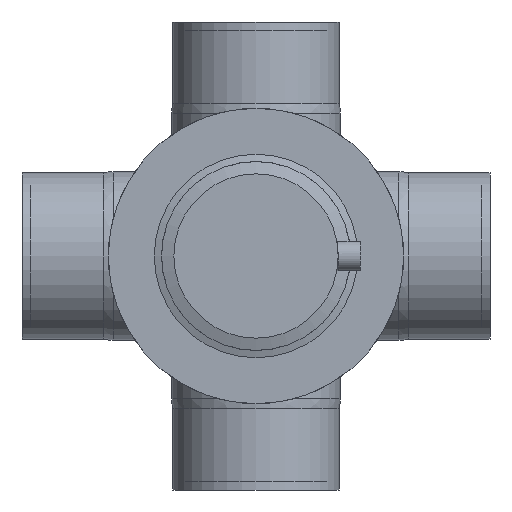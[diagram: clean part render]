
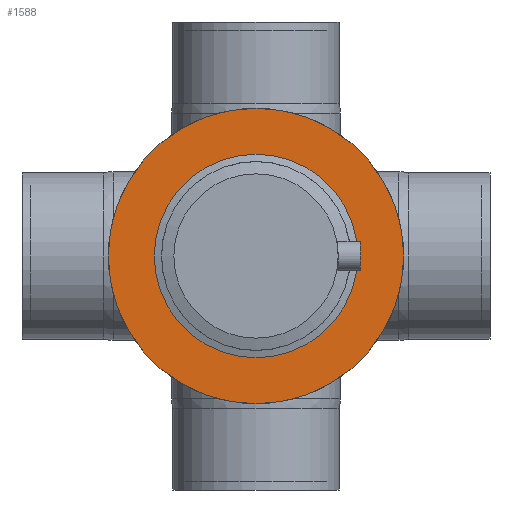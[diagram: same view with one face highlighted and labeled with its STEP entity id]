
A CAD part, front view. The second image highlights one B-rep face of the part: STEP entity #1588.
In plain terms, the highlighted planar face has unit normal (0, -1, 0).
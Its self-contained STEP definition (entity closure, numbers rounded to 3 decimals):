
#107=FACE_BOUND('',#373,.T.);
#145=PLANE('',#1905);
#239=FACE_OUTER_BOUND('',#372,.T.);
#372=EDGE_LOOP('',(#1374,#1375));
#373=EDGE_LOOP('',(#1376,#1377));
#620=CIRCLE('',#1903,57.5);
#621=CIRCLE('',#1904,57.5);
#622=CIRCLE('',#1906,90.);
#623=CIRCLE('',#1907,90.);
#786=VERTEX_POINT('',#3052);
#787=VERTEX_POINT('',#3054);
#788=VERTEX_POINT('',#3058);
#789=VERTEX_POINT('',#3059);
#990=EDGE_CURVE('',#787,#786,#620,.T.);
#991=EDGE_CURVE('',#786,#787,#621,.T.);
#992=EDGE_CURVE('',#788,#789,#622,.T.);
#993=EDGE_CURVE('',#789,#788,#623,.T.);
#1374=ORIENTED_EDGE('',*,*,#992,.F.);
#1375=ORIENTED_EDGE('',*,*,#993,.F.);
#1376=ORIENTED_EDGE('',*,*,#990,.T.);
#1377=ORIENTED_EDGE('',*,*,#991,.T.);
#1588=ADVANCED_FACE('',(#239,#107),#145,.F.);
#1903=AXIS2_PLACEMENT_3D('',#3055,#2424,#2425);
#1904=AXIS2_PLACEMENT_3D('',#3056,#2426,#2427);
#1905=AXIS2_PLACEMENT_3D('',#3057,#2428,#2429);
#1906=AXIS2_PLACEMENT_3D('',#3060,#2430,#2431);
#1907=AXIS2_PLACEMENT_3D('',#3061,#2432,#2433);
#2424=DIRECTION('center_axis',(0.,1.,0.));
#2425=DIRECTION('ref_axis',(1.,0.,0.));
#2426=DIRECTION('center_axis',(0.,1.,0.));
#2427=DIRECTION('ref_axis',(1.,0.,0.));
#2428=DIRECTION('center_axis',(0.,1.,0.));
#2429=DIRECTION('ref_axis',(0.,0.,1.));
#2430=DIRECTION('center_axis',(0.,1.,0.));
#2431=DIRECTION('ref_axis',(-1.,0.,0.));
#2432=DIRECTION('center_axis',(0.,1.,0.));
#2433=DIRECTION('ref_axis',(-1.,0.,0.));
#3052=CARTESIAN_POINT('',(57.5,-14.9,0.));
#3054=CARTESIAN_POINT('',(-57.5,-14.9,0.));
#3055=CARTESIAN_POINT('Origin',(0.,-14.9,0.));
#3056=CARTESIAN_POINT('Origin',(0.,-14.9,0.));
#3057=CARTESIAN_POINT('Origin',(-57.5,-14.9,0.));
#3058=CARTESIAN_POINT('',(-90.,-14.9,0.));
#3059=CARTESIAN_POINT('',(90.,-14.9,0.));
#3060=CARTESIAN_POINT('Origin',(0.,-14.9,0.));
#3061=CARTESIAN_POINT('Origin',(0.,-14.9,0.));
